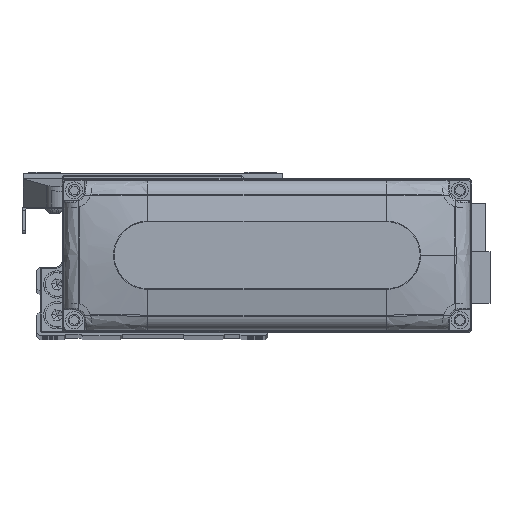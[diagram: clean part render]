
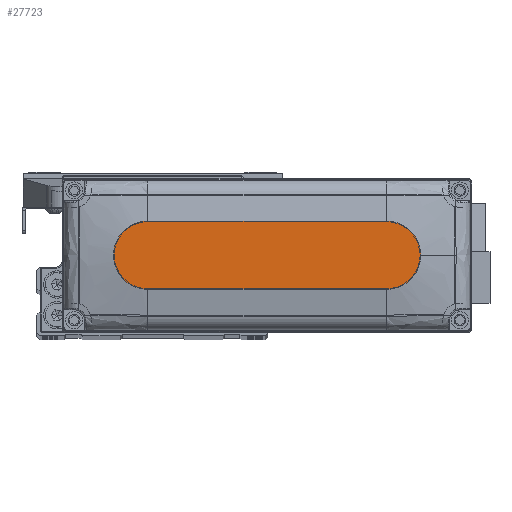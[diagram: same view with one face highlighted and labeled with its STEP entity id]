
A CAD part, top view. The second image highlights one B-rep face of the part: STEP entity #27723.
In plain terms, the highlighted planar face has unit normal (0, 0, 1).
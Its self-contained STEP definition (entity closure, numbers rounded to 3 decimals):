
#1273 = PLANE ( 'NONE',  #44729 ) ;
#2562 = CARTESIAN_POINT ( 'NONE',  ( -35., 10., 28. ) ) ;
#2661 = AXIS2_PLACEMENT_3D ( 'NONE', #12217, #26354, #40444 ) ;
#3155 = EDGE_CURVE ( 'NONE', #44822, #7291, #14791, .T. ) ;
#4022 = EDGE_CURVE ( 'NONE', #7291, #32710, #34307, .T. ) ;
#5352 = DIRECTION ( 'NONE',  ( 1., 0., 0. ) ) ;
#5948 = CARTESIAN_POINT ( 'NONE',  ( 35., 0., 28. ) ) ;
#7291 = VERTEX_POINT ( 'NONE', #16674 ) ;
#7423 = CARTESIAN_POINT ( 'NONE',  ( 35., -10., 28. ) ) ;
#8400 = EDGE_CURVE ( 'NONE', #19371, #12585, #22968, .T. ) ;
#10154 = DIRECTION ( 'NONE',  ( 0., 0., 1. ) ) ;
#12217 = CARTESIAN_POINT ( 'NONE',  ( 35., 0., 28. ) ) ;
#12585 = VERTEX_POINT ( 'NONE', #7423 ) ;
#14579 = EDGE_CURVE ( 'NONE', #32710, #19371, #44934, .T. ) ;
#14791 = CIRCLE ( 'NONE', #40648, 10. ) ;
#15411 = CARTESIAN_POINT ( 'NONE',  ( 0., 0., 28. ) ) ;
#16674 = CARTESIAN_POINT ( 'NONE',  ( 35., 10., 28. ) ) ;
#16695 = DIRECTION ( 'NONE',  ( -1., 0., 0. ) ) ;
#18298 = ORIENTED_EDGE ( 'NONE', *, *, #3155, .T. ) ;
#19371 = VERTEX_POINT ( 'NONE', #27493 ) ;
#20074 = DIRECTION ( 'NONE',  ( 0., 0., 1. ) ) ;
#20467 = EDGE_CURVE ( 'NONE', #12585, #44822, #22648, .T. ) ;
#22648 = CIRCLE ( 'NONE', #2661, 10. ) ;
#22968 = LINE ( 'NONE', #37073, #39658 ) ;
#23136 = EDGE_LOOP ( 'NONE', ( #33066, #26829, #42457, #25480, #18298 ) ) ;
#24289 = DIRECTION ( 'NONE',  ( 1., 0., 0. ) ) ;
#25016 = AXIS2_PLACEMENT_3D ( 'NONE', #41843, #10154, #24289 ) ;
#25480 = ORIENTED_EDGE ( 'NONE', *, *, #20467, .T. ) ;
#26354 = DIRECTION ( 'NONE',  ( 0., 0., 1. ) ) ;
#26829 = ORIENTED_EDGE ( 'NONE', *, *, #14579, .T. ) ;
#27493 = CARTESIAN_POINT ( 'NONE',  ( -35., -10., 28. ) ) ;
#27707 = CARTESIAN_POINT ( 'NONE',  ( 45., 0., 28. ) ) ;
#27723 = ADVANCED_FACE ( 'NONE', ( #33015 ), #1273, .T. ) ;
#29557 = DIRECTION ( 'NONE',  ( 0., 0., 1. ) ) ;
#32710 = VERTEX_POINT ( 'NONE', #44378 ) ;
#33015 = FACE_OUTER_BOUND ( 'NONE', #23136, .T. ) ;
#33066 = ORIENTED_EDGE ( 'NONE', *, *, #4022, .T. ) ;
#34201 = DIRECTION ( 'NONE',  ( 1., 0., 0. ) ) ;
#34307 = LINE ( 'NONE', #2562, #38515 ) ;
#37073 = CARTESIAN_POINT ( 'NONE',  ( -35., -10., 28. ) ) ;
#38515 = VECTOR ( 'NONE', #16695, 1000. ) ;
#39658 = VECTOR ( 'NONE', #5352, 1000. ) ;
#40444 = DIRECTION ( 'NONE',  ( 1., 0., 0. ) ) ;
#40648 = AXIS2_PLACEMENT_3D ( 'NONE', #5948, #20074, #34201 ) ;
#41843 = CARTESIAN_POINT ( 'NONE',  ( -35., 0., 28. ) ) ;
#42457 = ORIENTED_EDGE ( 'NONE', *, *, #8400, .T. ) ;
#43637 = DIRECTION ( 'NONE',  ( 1., 0., 0. ) ) ;
#44378 = CARTESIAN_POINT ( 'NONE',  ( -35., 10., 28. ) ) ;
#44729 = AXIS2_PLACEMENT_3D ( 'NONE', #15411, #29557, #43637 ) ;
#44822 = VERTEX_POINT ( 'NONE', #27707 ) ;
#44934 = CIRCLE ( 'NONE', #25016, 10. ) ;
